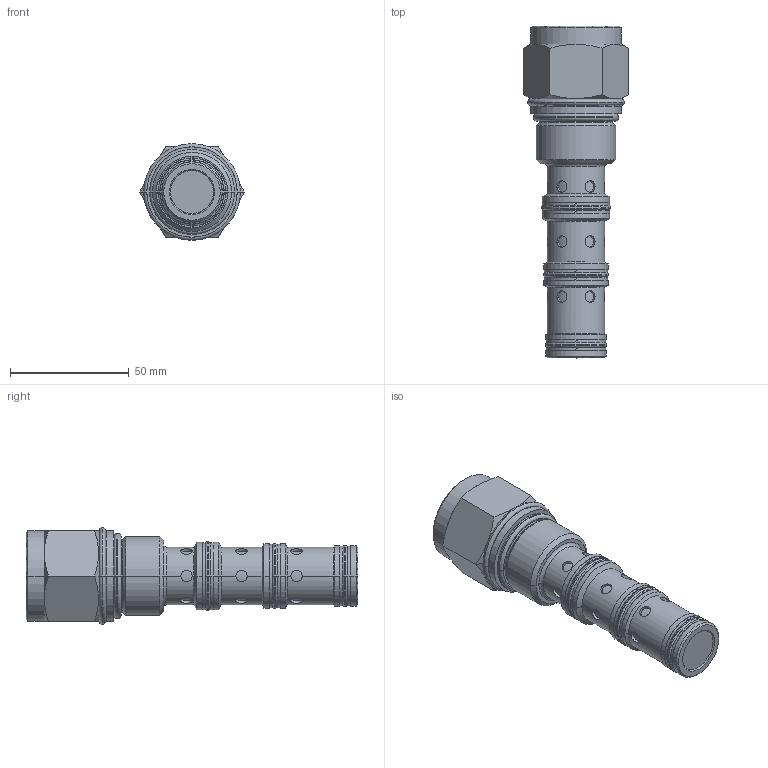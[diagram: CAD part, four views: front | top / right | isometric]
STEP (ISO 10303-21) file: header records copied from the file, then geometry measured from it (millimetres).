
FILE_DESCRIPTION((''),'2;1');
FILE_NAME('DCPS-16-E-F-OUT','2015-12-22T',('torrese'),(''),'PRO/ENGINEER BY PARAMETRIC TECHNOLOGY CORPORATION, 2015070','PRO/ENGINEER BY PARAMETRIC TECHNOLOGY CORPORATION, 2015070','');
FILE_SCHEMA(('CONFIG_CONTROL_DESIGN','GEOMETRIC_VALIDATION_PROPERTIES_MIM'));
Length unit declared in the file: inch
Products named in the file (1): DCPS-16-E-F-OUT
Bounding box: 43.99 x 139.45 x 40.64 mm (x, y, z)
Volume: 103017 mm3; surface area: 17641.5 mm2
Topology: 1 solids, 1 shells, 215 faces, 468 edges, 280 vertices
Faces by surface type: cylinder 118, plane 39, torus 30, cone 28
Entity records: 14896 total; most frequent: CARTESIAN_POINT 7727, DIRECTION 992, ORIENTED_EDGE 936, PRESENTATION_STYLE_ASSIGNMENT 602, STYLED_ITEM 475, CURVE_STYLE 468, EDGE_CURVE 468, AXIS2_PLACEMENT_3D 417
